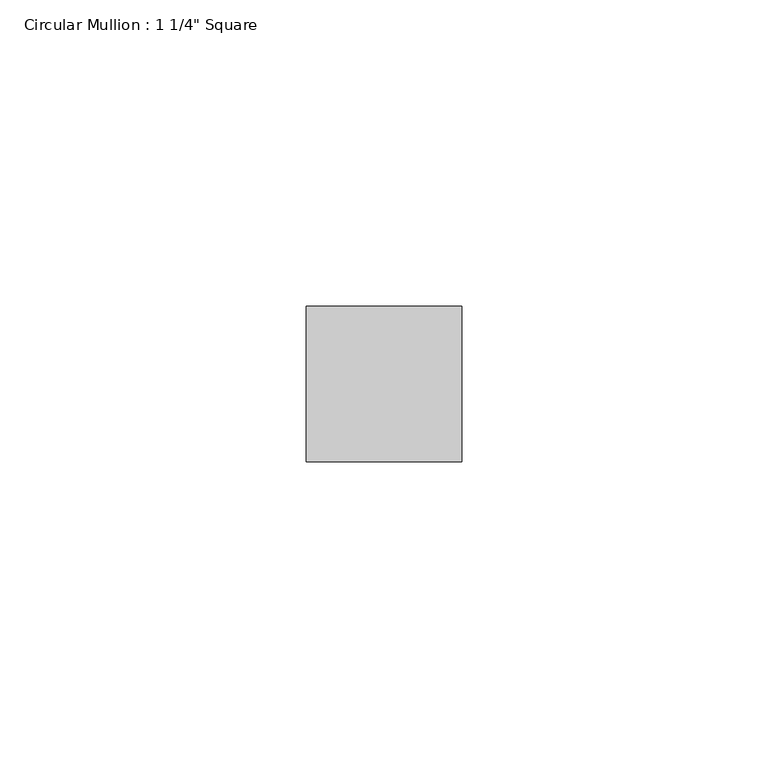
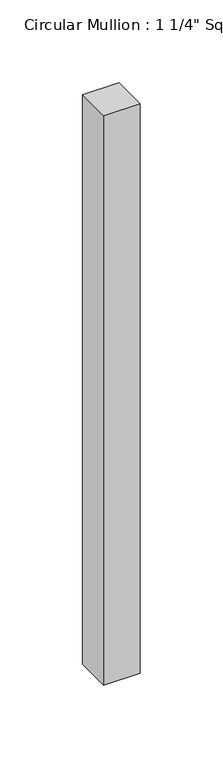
"""IFC4 building model written with IfcOpenShell, lengths in millimetres: member geometry."""

from ifc_helpers import new_model, si_unit, frame, origin, place, context, project, spatial, polyline, outline, extrude, source, transform, mapped, element, save


def member_5dd0e0a2(model_context):
    return source(origin(), model_context, "Body", "SweptSolid", [
        extrude(outline(polyline([(0.0, 12.7), (0.0, -12.7), (-25.4, -12.7), (-25.4, 12.7), (0.0, 12.7)])), frame((0.0, 0.0, -419.1), z_axis=(0.0, 0.0, 1.0), x_axis=(1.0, 0.0, 0.0)), (0.0, 0.0, 1.0), 419.1),
    ])


if __name__ == "__main__":
    model = new_model("IFC4")
    model_context = context("Model", 3, world=origin())
    ifc_project = project(units=[si_unit("LENGTHUNIT", "METRE", prefix="MILLI")], contexts=[model_context])
    site = spatial("IfcSite", under=ifc_project)
    building = spatial("IfcBuilding", under=site)
    placement = place(None, origin())
    member_shape = member_5dd0e0a2(model_context)
    element("IfcMember", 1, ObjectType="Circular Mullion : 1 1/4\" Square", at=placement, inside=building, context=model_context, shape_type="MappedRepresentation", body=[
        mapped(member_shape, transform((0.0, 0.0, 0.0), x_axis=(1.0, 0.0, 0.0), y_axis=(0.0, 1.0, 0.0), z_axis=(0.0, 0.0, 1.0))),
    ])
    save(model, "model.ifc")
